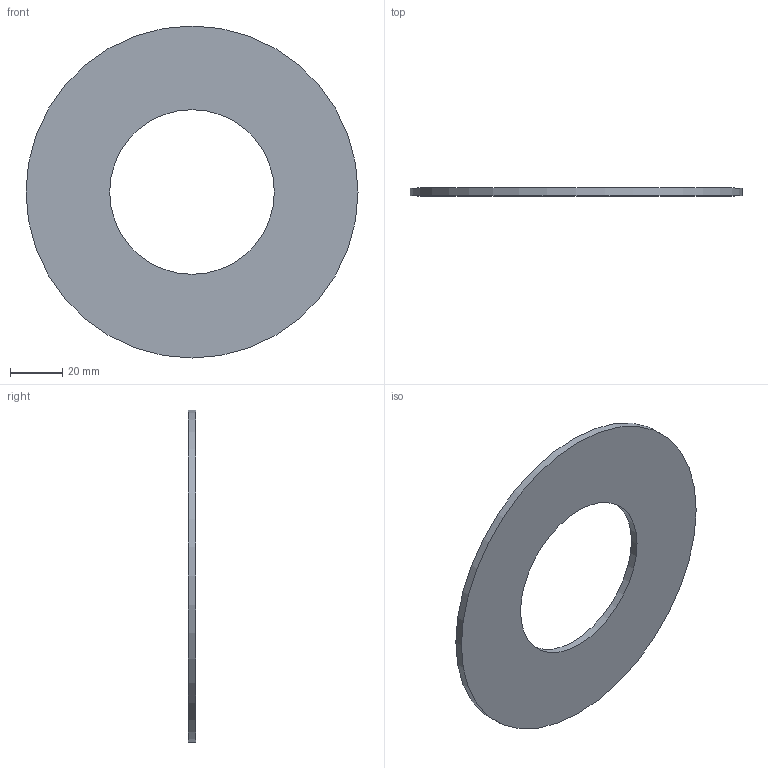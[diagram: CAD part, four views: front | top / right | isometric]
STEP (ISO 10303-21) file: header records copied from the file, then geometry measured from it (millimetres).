
FILE_DESCRIPTION(/* description */ ('Unknown'),/* implementation_level */ '2;1');
FILE_NAME(/* name */ 'GUA.075H',/* time_stamp */ '2021-04-01T15:00:37+02:00',/* author */ ('Unknown'),/* organization */ ('Unknown'),/* preprocessor_version */ 'ST-DEVELOPER v16.7',/* originating_system */ 'Solid Edge',/* authorisation */ 'Unknown');
FILE_SCHEMA (('AUTOMOTIVE_DESIGN {1 0 10303 214 3 1 1}'));
Length unit declared in the file: millimetre
Products named in the file (1): GUA.075H
Bounding box: 127 x 3 x 127 mm (x, y, z)
Volume: 28651.3 mm3; surface area: 20891.6 mm2
Topology: 1 solids, 1 shells, 4 faces, 6 edges, 4 vertices
Faces by surface type: cylinder 2, plane 2
Full cylindrical faces by diameter (mm): 63 x1, 127 x1
Entity records: 118 total; most frequent: DIRECTION 18, CARTESIAN_POINT 13, AXIS2_PLACEMENT_3D 9, ORIENTED_EDGE 8, EDGE_LOOP 8, FACE_BOUND 8, EDGE_CURVE 4, VERTEX_POINT 4
